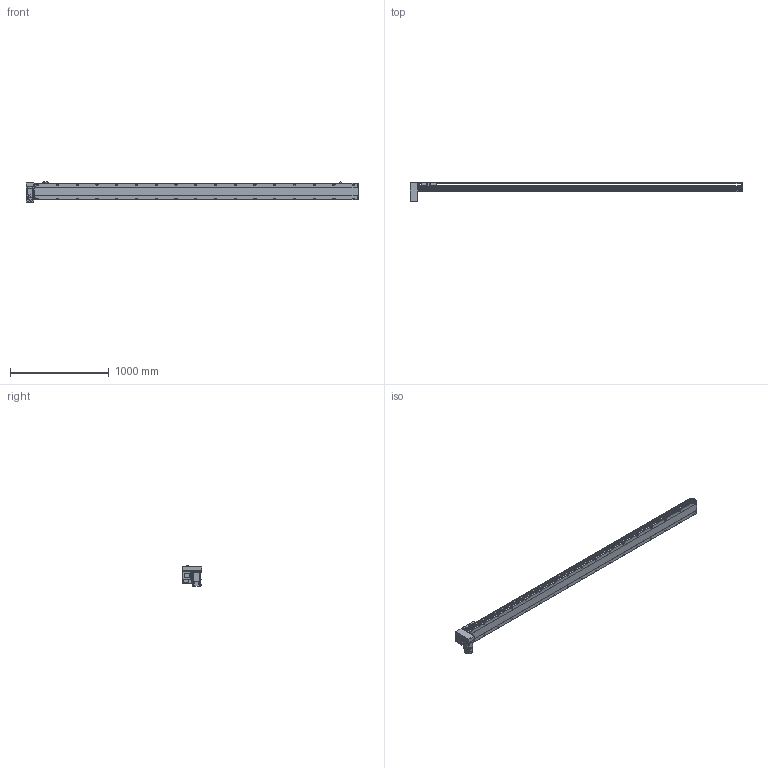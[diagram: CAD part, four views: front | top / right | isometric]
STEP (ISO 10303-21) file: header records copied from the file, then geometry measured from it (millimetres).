
FILE_DESCRIPTION(/* description */ ('STEP AP214'),/* implementation_level */ '2;1');
FILE_NAME(/* name */ 'PBS170-P40-S3000-RD-T75-C1-N(0)',/* time_stamp */ '2022-06-08T07:38:32+02:00',/* author */ ('License CC BY-ND 4.0'),/* organization */ ('CADENAS'),/* preprocessor_version */ 'ST-DEVELOPER v18.102',/* originating_system */ 'PARTsolutions',/* authorisation */ ' ');
FILE_SCHEMA (('AUTOMOTIVE_DESIGN {1 0 10303 214 3 1 1}'));
Length unit declared in the file: millimetre
Products named in the file (7): PBS170-P40-S3000-RD-T75-C1-N(0); PBS170_sensor; PBS170_plant; PBS170_sliser; T75-p1; PBS170T-RD_motors; PBS170-S3000()_body
Assembly tree (8 placements, depth 2):
  PBS170-P40-S3000-RD-T75-C1-N(0)
    PBS170_sensor  x3
    PBS170_plant
    PBS170_sliser
    T75-p1
    PBS170T-RD_motors
    PBS170-S3000()_body
Bounding box: 3363 x 201 x 205.3 mm (x, y, z)
Volume: 25243264 mm3; surface area: 3158626.7 mm2
Topology: 8 solids, 8 shells, 1226 faces, 3235 edges, 2108 vertices
Faces by surface type: plane 741, cylinder 411, cone 64, sphere 8, torus 2
Full cylindrical faces by diameter (mm): 3.242 x4, 4 x2, 4.4 x4, 4.5 x6, 4.917 x4, 6 x9, 6.647 x42, 7 x2, 7.5 x4, 8 x8, 8.5 x34, 10 x4, 10.5 x34, 11 x2, 30 x2, 40 x1, 70 x1
Entity records: 35240 total; most frequent: CARTESIAN_POINT 6721, DIRECTION 5930, ORIENTED_EDGE 5568, EDGE_CURVE 2784, AXIS2_PLACEMENT_3D 2107, VERTEX_POINT 1946, LINE 1716, VECTOR 1716
